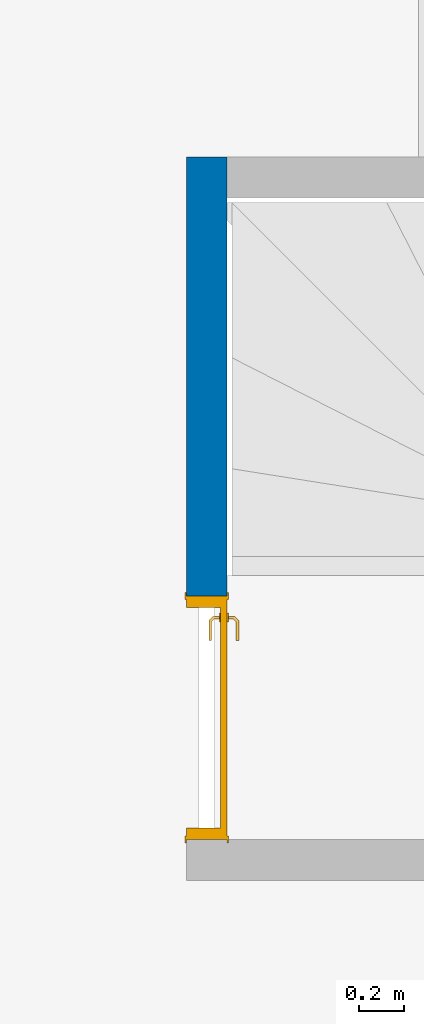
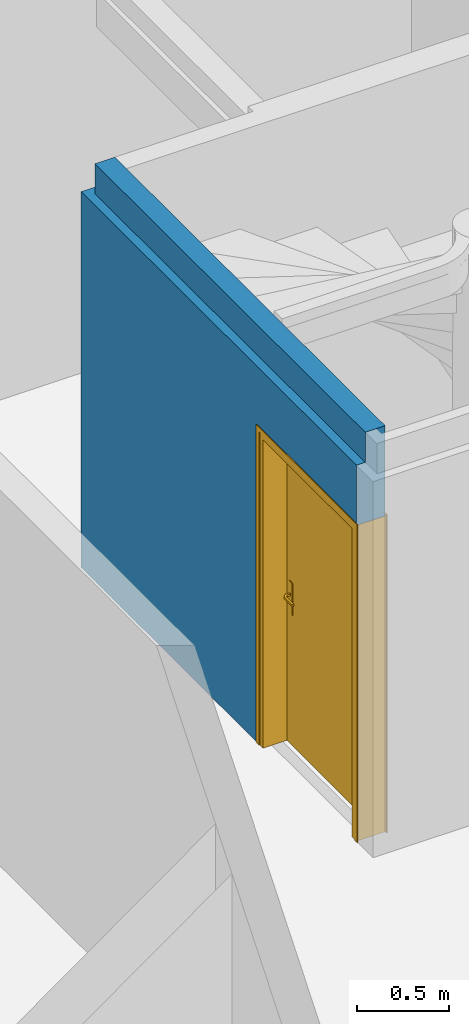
# One storey, part 16 of 34: 1 door, 1 wall, 1 opening.
"""IFC2X3 building model written with IfcOpenShell, lengths in centimetres."""

from ifc_helpers import new_model, entity, si_unit, converted_unit, derived_unit, direction, frame, frame_2d, origin, place, context, subcontext, project, spatial, rectangle, extrude, faceted_brep, source, transform, mapped, material, material_list, type_object, type_shapes, element, fill, save


model = new_model("IFC2X3")

# Units and contexts
model_context = context("Model", 3, precision=0.001, world=origin(), true_north=direction((6.12303176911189e-17, 1.0)))
body_context = subcontext(model_context, "Body", "Model", "MODEL_VIEW")
ifc_project = project(units=[si_unit("LENGTHUNIT", "METRE", prefix="CENTI"), si_unit("AREAUNIT", "SQUARE_METRE"), si_unit("VOLUMEUNIT", "CUBIC_METRE"), converted_unit("PLANEANGLEUNIT", "DEGREE", entity("IfcRatioMeasure", 0.0174532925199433), si_unit("PLANEANGLEUNIT", "RADIAN"), dimensions=[0, 0, 0, 0, 0, 0, 0]), si_unit("MASSUNIT", "GRAM", prefix="KILO"), derived_unit("MASSDENSITYUNIT", [(si_unit("MASSUNIT", "GRAM", prefix="KILO"), 1), (si_unit("LENGTHUNIT", "METRE"), -3)]), si_unit("TIMEUNIT", "SECOND"), si_unit("FREQUENCYUNIT", "HERTZ"), si_unit("THERMODYNAMICTEMPERATUREUNIT", "DEGREE_CELSIUS"), derived_unit("THERMALTRANSMITTANCEUNIT", [(si_unit("MASSUNIT", "GRAM", prefix="KILO"), 1), (si_unit("THERMODYNAMICTEMPERATUREUNIT", "KELVIN"), -1), (si_unit("TIMEUNIT", "SECOND"), -3)]), derived_unit("VOLUMETRICFLOWRATEUNIT", [(si_unit("LENGTHUNIT", "METRE"), 3), (si_unit("TIMEUNIT", "SECOND"), -1)]), si_unit("ELECTRICCURRENTUNIT", "AMPERE"), si_unit("ELECTRICVOLTAGEUNIT", "VOLT"), si_unit("POWERUNIT", "WATT"), si_unit("FORCEUNIT", "NEWTON"), si_unit("ILLUMINANCEUNIT", "LUX"), si_unit("LUMINOUSFLUXUNIT", "LUMEN"), si_unit("LUMINOUSINTENSITYUNIT", "CANDELA"), derived_unit("USERDEFINED", [(si_unit("MASSUNIT", "GRAM", prefix="KILO"), -1), (si_unit("LENGTHUNIT", "METRE"), -2), (si_unit("TIMEUNIT", "SECOND"), 3), (si_unit("LUMINOUSFLUXUNIT", "LUMEN"), 1)]), derived_unit("LINEARVELOCITYUNIT", [(si_unit("LENGTHUNIT", "METRE"), 1), (si_unit("TIMEUNIT", "SECOND"), -1)]), si_unit("PRESSUREUNIT", "PASCAL"), derived_unit("USERDEFINED", [(si_unit("LENGTHUNIT", "METRE"), -2), (si_unit("MASSUNIT", "GRAM", prefix="KILO"), 1), (si_unit("TIMEUNIT", "SECOND"), -2)])], contexts=[model_context])

# Site, building, storey
site_placement = place(None, origin())
site = spatial("IfcSite", under=ifc_project, at=site_placement, Name="Default", CompositionType="ELEMENT")
building_placement = place(site_placement, origin())
building = spatial("IfcBuilding", under=site, at=building_placement, Name="CAGE 03", CompositionType="ELEMENT")
storey_placement = place(building_placement, frame((0.0, 0.0, 340.0)))
storey = spatial("IfcBuildingStorey", under=building, at=storey_placement, Name="R+1", CompositionType="ELEMENT", Elevation=340.0)

# Wall, opening, door
wall_type = type_object("IfcWallType", Name="Mur de base:premur 18", PredefinedType="NOTDEFINED")
wall_placement = place(storey_placement, frame((10199.3658201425, 4650.66066607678, 0.0), z_axis=(0.0, 0.0, 1.0), x_axis=(0.0, 1.0, 0.0)))
wall = element("IfcWall", 1, at=wall_placement, inside=storey, type_object=wall_type, Name="Mur de base:premur 18", ObjectType="Mur de base:premur 18", context=body_context, shape_type="Brep", body=[
    faceted_brep([(107.0, -9.0, 0.0), (282.0, -9.0, 0.0), (294.500000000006, -9.0, 0.0), (300.0, -9.0, 0.0), (300.0, -9.0, 250.0), (294.500000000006, -9.0, 250.0), (294.500000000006, -9.0, 270.0), (282.0, -9.0, 270.0), (107.0, -9.0, 270.0), (0.0, -9.0, 270.0), (0.0, -9.0, 210.0), (107.0, -9.0, 210.0), (300.0, 9.0, 0.0), (107.0, 9.0, 0.0), (107.0, 9.0, 210.0), (0.0, 9.0, 210.0), (0.0, 9.0, 250.0), (300.0, 9.0, 250.0), (294.500000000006, 3.49999999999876, 270.0), (0.0, 3.49999999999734, 270.0), (0.0, 3.49999999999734, 250.0), (294.500000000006, 3.49999999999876, 250.0)], [[[0, 1, 2, 3, 4, 5, 6, 7, 8, 9, 10, 11]], [[12, 13, 14, 15, 16, 17]], [[12, 3, 2, 1, 0, 13]], [[9, 8, 7, 6, 18, 19]], [[3, 12, 17, 4]], [[10, 9, 19, 20, 16, 15]], [[11, 10, 15, 14]], [[0, 11, 14, 13]], [[20, 21, 5, 4, 17, 16]], [[21, 18, 6, 5]], [[18, 21, 20, 19]]]),
])
opening_placement = place(wall_placement, frame((107.0, 9.0, 0.0)))
opening = element("IfcOpeningElement", 2, at=opening_placement, cuts=wall, Name="Int. Simple:HB103:1", ObjectType="Opening", context=body_context, shape_type="SweptSolid", body=[
    extrude(rectangle(XDim=210.000000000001, YDim=107.0, at=frame_2d((105.000000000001, 53.4999999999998), x_axis=(1.0, 0.0))), frame((0.0, 0.0, 0.0), z_axis=(0.0, -1.0, 0.0), x_axis=(0.0, 0.0, 1.0)), (0.0, 0.0, 1.0), 18.0),
])
ifc_material_1 = material(Name="Finition Peinture - Blanc satiné")
ifc_material_2 = material(Name="Bois - Panneau de porte")
ifc_material_3 = material(Name="Bois - Cadre de porte")
ifc_material_list_1 = material_list([ifc_material_1, ifc_material_2, ifc_material_3])
ifc_material_list_2 = material_list([ifc_material_1, ifc_material_2, ifc_material_3])
door_style = type_object("IfcDoorStyle", Name="HB103", ConstructionType="NOTDEFINED", OperationType="SINGLE_SWING_RIGHT", ParameterTakesPrecedence=False, Sizeable=False, material=ifc_material_list_2)
shared_shape = source(origin(), body_context, "Body", "Brep", [
    faceted_brep([(106.500000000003, -0.500000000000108, 87.0), (106.500000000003, -0.500000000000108, 108.0), (105.535276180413, -0.500000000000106, 108.399601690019), (104.500000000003, -0.500000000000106, 108.535898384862), (103.464723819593, -0.500000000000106, 108.399601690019), (102.500000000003, -0.500000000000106, 108.0), (102.500000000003, -0.500000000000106, 87.0), (103.464723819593, -0.500000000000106, 86.6003983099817), (104.500000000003, -0.500000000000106, 86.464101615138), (105.535276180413, -0.500000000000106, 86.6003983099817), (106.500000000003, 0.0, 108.0), (106.500000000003, 0.0, 87.0), (105.535276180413, 0.0, 86.6003983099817), (104.500000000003, 0.0, 86.464101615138), (103.464723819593, 0.0, 86.6003983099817), (102.500000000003, 0.0, 87.0), (102.500000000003, 0.0, 108.0), (103.464723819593, 0.0, 108.399601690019), (104.500000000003, 0.0, 108.535898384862), (105.535276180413, 0.0, 108.399601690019)], [[[0, 1, 2, 3, 4, 5, 6, 7, 8, 9]], [[10, 11, 12, 13, 14, 15, 16, 17, 18, 19]], [[9, 12, 11, 0]], [[8, 13, 12, 9]], [[7, 14, 13, 8]], [[7, 6, 15, 14]], [[15, 6, 5, 16]], [[4, 17, 16, 5]], [[3, 18, 17, 4]], [[2, 19, 18, 3]], [[2, 1, 10, 19]], [[11, 10, 1, 0]]]),
    faceted_brep([(106.500000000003, 3.0, 87.0), (106.500000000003, 3.0, 108.0), (105.535276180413, 3.0, 108.399601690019), (104.500000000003, 3.0, 108.535898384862), (103.464723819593, 3.0, 108.399601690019), (102.500000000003, 3.0, 108.0), (102.500000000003, 3.0, 87.0), (103.464723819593, 3.0, 86.6003983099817), (104.500000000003, 3.0, 86.464101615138), (105.535276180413, 3.0, 86.6003983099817), (104.500000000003, 3.49999999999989, 108.535898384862), (105.535276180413, 3.49999999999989, 108.399601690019), (106.500000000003, 3.49999999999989, 108.0), (106.500000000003, 3.49999999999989, 87.0), (105.535276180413, 3.49999999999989, 86.6003983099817), (104.500000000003, 3.49999999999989, 86.464101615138), (103.464723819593, 3.49999999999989, 86.6003983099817), (102.500000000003, 3.49999999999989, 87.0), (102.500000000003, 3.49999999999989, 108.0), (103.464723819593, 3.49999999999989, 108.399601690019)], [[[0, 1, 2, 3, 4, 5, 6, 7, 8, 9]], [[10, 11, 12, 13, 14, 15, 16, 17, 18, 19]], [[4, 19, 18, 5]], [[3, 10, 19, 4]], [[2, 11, 10, 3]], [[2, 1, 12, 11]], [[13, 12, 1, 0]], [[9, 14, 13, 0]], [[8, 15, 14, 9]], [[7, 16, 15, 8]], [[7, 6, 17, 16]], [[17, 6, 5, 18]]]),
    faceted_brep([(104.297470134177, -0.500000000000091, 100.778044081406), (104.702529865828, -0.500000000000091, 100.778044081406), (105.100000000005, -0.500000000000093, 100.699999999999), (105.100000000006, -0.500000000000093, 99.299999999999), (104.702529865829, -0.500000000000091, 99.2219559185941), (104.297470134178, -0.500000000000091, 99.2219559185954), (103.9, -0.500000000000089, 99.3000000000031), (103.9, -0.500000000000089, 100.7), (104.702529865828, -3.1004575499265, 100.778044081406), (105.100000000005, -3.26509507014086, 100.7), (104.297470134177, -2.93267631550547, 100.778044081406), (102.92986024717, -4.30028620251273, 100.778044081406), (103.097641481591, -4.70534593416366, 100.778044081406), (103.9, -2.76803879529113, 100.7), (103.9, -2.76803879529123, 99.3000000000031), (104.297470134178, -2.93267631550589, 99.2219559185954), (104.702529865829, -3.10045754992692, 99.2219559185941), (103.097641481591, -4.70534593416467, 99.2219559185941), (102.92986024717, -4.30028620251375, 99.2219559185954), (105.100000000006, -3.26509507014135, 99.299999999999), (103.262279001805, -5.10281606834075, 100.7), (102.765222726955, -3.90281606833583, 100.7), (102.765222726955, -3.90281606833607, 99.3000000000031), (103.262279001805, -5.10281606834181, 99.299999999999), (94.4981359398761, -5.1028160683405, 100.7), (94.4981359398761, -4.7053459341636, 100.778044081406), (94.4981359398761, -4.30028620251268, 100.778044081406), (94.4981359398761, -3.90281606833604, 100.699999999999), (94.4981359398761, -3.90281606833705, 99.3000000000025), (94.4981359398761, -4.30028620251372, 99.2219559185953), (94.4981359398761, -4.70534593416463, 99.2219559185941), (94.4981359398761, -5.10281606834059, 99.2999999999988), (98.7139980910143, -4.50281606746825, 100.78786867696), (99.2692302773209, -5.10281606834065, 100.7), (98.6316793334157, -3.90281606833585, 100.7), (98.6316793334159, -3.90281606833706, 99.3000000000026), (98.7139981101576, -4.50281607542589, 99.2121313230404), (99.2692299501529, -5.10281606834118, 99.2999999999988)], [[[0, 1, 2, 3, 4, 5, 6, 7]], [[2, 1, 8, 9]], [[1, 0, 10, 11, 12, 8]], [[0, 7, 13, 10]], [[14, 13, 7, 6]], [[5, 15, 14, 6]], [[5, 4, 16, 17, 18, 15]], [[3, 19, 16, 4]], [[9, 19, 3, 2]], [[9, 8, 12, 20]], [[10, 13, 21, 11]], [[22, 21, 13, 14]], [[14, 15, 18, 22]], [[16, 19, 23, 17]], [[20, 23, 19, 9]], [[24, 25, 26, 27, 28, 29, 30, 31]], [[32, 25, 33]], [[33, 25, 24]], [[33, 20, 12]], [[11, 34, 32]], [[34, 11, 21]], [[27, 26, 34]], [[32, 26, 25]], [[32, 34, 26]], [[32, 33, 12]], [[11, 32, 12]], [[21, 22, 35, 28, 27, 34]], [[36, 29, 35]], [[30, 36, 37]], [[18, 35, 22]], [[29, 28, 35]], [[30, 37, 31]], [[37, 17, 23]], [[36, 17, 37]], [[36, 18, 17]], [[36, 35, 18]], [[29, 36, 30]], [[23, 20, 33, 24, 31, 37]]]),
    faceted_brep([(104.297470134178, 3.49999999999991, 99.2219559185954), (104.702529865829, 3.49999999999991, 99.2219559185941), (105.100000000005, 3.4999999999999, 99.2999999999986), (105.100000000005, 3.4999999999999, 100.7), (104.702529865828, 3.49999999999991, 100.778044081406), (104.297470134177, 3.49999999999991, 100.778044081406), (103.9, 3.49999999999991, 100.7), (103.900000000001, 3.49999999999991, 99.3000000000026), (103.9, 5.74852045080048, 100.7), (103.9, 5.74852045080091, 99.3000000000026), (104.297470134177, 5.91315797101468, 100.778044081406), (104.702529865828, 6.08093920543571, 100.778044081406), (103.083890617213, 7.69957845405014, 100.778044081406), (102.916109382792, 7.29451872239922, 100.778044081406), (105.100000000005, 6.24557672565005, 100.7), (105.100000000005, 6.2455767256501, 99.2999999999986), (104.702529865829, 6.08093920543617, 99.2219559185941), (104.297470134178, 5.91315797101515, 99.2219559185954), (102.916109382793, 7.29451872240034, 99.2219559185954), (103.083890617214, 7.69957845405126, 99.2219559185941), (102.751471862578, 6.89704858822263, 100.7), (102.751471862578, 6.89704858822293, 99.3000000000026), (103.248528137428, 8.09704858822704, 100.7), (103.248528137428, 8.09704858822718, 99.2999999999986), (94.4954216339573, 7.29451872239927, 100.778044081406), (94.4954216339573, 7.6995784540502, 100.778044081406), (94.4954216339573, 8.0970485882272, 100.7), (94.4954216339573, 8.09704858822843, 99.299999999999), (94.4954216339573, 7.6995784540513, 99.2219559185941), (94.4954216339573, 7.29451872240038, 99.2219559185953), (94.4954216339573, 6.89704858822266, 99.3000000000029), (94.4954216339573, 6.89704858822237, 100.7), (98.6234467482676, 6.89704858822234, 100.7), (98.6234479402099, 6.89704858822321, 99.3000000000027), (98.7057655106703, 7.4970485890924, 100.78786867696), (99.255479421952, 8.09704858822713, 100.7), (99.2554794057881, 8.09704858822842, 99.299999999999), (98.7057654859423, 7.49704858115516, 99.2121313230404)], [[[0, 1, 2, 3, 4, 5, 6, 7]], [[8, 9, 7, 6]], [[5, 10, 8, 6]], [[5, 4, 11, 12, 13, 10]], [[3, 14, 11, 4]], [[14, 3, 2, 15]], [[2, 1, 16, 15]], [[1, 0, 17, 18, 19, 16]], [[0, 7, 9, 17]], [[20, 21, 9, 8]], [[8, 10, 13, 20]], [[14, 22, 12, 11]], [[23, 22, 14, 15]], [[15, 16, 19, 23]], [[17, 9, 21, 18]], [[24, 25, 26, 27, 28, 29, 30, 31]], [[20, 32, 31, 30, 33, 21]], [[34, 24, 32]], [[25, 34, 35]], [[13, 32, 20]], [[24, 31, 32]], [[25, 35, 26]], [[35, 12, 22]], [[34, 12, 35]], [[34, 13, 12]], [[34, 32, 13]], [[24, 34, 25]], [[22, 23, 36, 27, 26, 35]], [[37, 28, 36]], [[36, 28, 27]], [[36, 23, 19]], [[18, 33, 37]], [[33, 18, 21]], [[30, 29, 33]], [[37, 29, 28]], [[37, 33, 29]], [[37, 36, 19]], [[18, 37, 19]]]),
    faceted_brep([(110.500000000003, 3.0, 206.5), (110.500000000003, 3.0, 0.0), (10.5000000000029, 3.0, 0.0), (10.5000000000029, 3.0, 206.5), (110.500000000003, 0.0, 206.5), (10.5000000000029, 0.0, 206.5), (10.5000000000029, 0.0, 0.0), (110.500000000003, 0.0, 0.0)], [[[0, 1, 2, 3]], [[4, 5, 6, 7]], [[3, 5, 4, 0]], [[2, 6, 5, 3]], [[1, 7, 6, 2]], [[0, 4, 7, 1]]]),
    faceted_brep([(114.0, 0.0, 0.0), (110.500000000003, 0.0, 0.0), (110.500000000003, 3.0, 0.0), (109.0, 3.0, 0.0), (109.0, 18.0, 0.0), (114.0, 18.0, 0.0), (114.0, 18.0, 210.0), (114.0, 0.0, 210.0), (109.0, 18.0, 205.0), (12.0, 18.0, 205.0), (12.0, 18.0, 0.0), (7.0, 18.0, 0.0), (7.0, 18.0, 210.0), (109.0, 3.0, 205.0), (110.500000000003, 3.0, 206.5), (10.5000000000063, 3.0, 206.5), (10.5000000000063, 3.0, 0.0), (12.0, 3.0, 0.0), (12.0, 3.0, 205.0), (110.500000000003, 0.0, 206.5), (7.0, 0.0, 210.0), (7.0, 0.0, 0.0), (10.5000000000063, 0.0, 0.0), (10.5000000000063, 0.0, 206.5)], [[[0, 1, 2, 3, 4, 5]], [[5, 6, 7, 0]], [[4, 8, 9, 10, 11, 12, 6, 5]], [[3, 13, 8, 4]], [[2, 14, 15, 16, 17, 18, 13, 3]], [[1, 19, 14, 2]], [[0, 7, 20, 21, 22, 23, 19, 1]], [[12, 11, 21, 20]], [[21, 11, 10, 17, 16, 22]], [[18, 17, 10, 9]], [[23, 22, 16, 15]], [[6, 12, 20, 7]], [[13, 18, 9, 8]], [[19, 23, 15, 14]]]),
    faceted_brep([(112.500000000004, 18.0, 0.0), (112.500000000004, 18.5000000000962, 0.0), (115.500000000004, 18.5000000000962, 0.0), (115.500000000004, 18.0, 0.0), (115.500000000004, 18.0, 211.500000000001), (5.50000000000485, 18.0, 211.500000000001), (5.50000000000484, 18.0, 0.0), (8.50000000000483, 18.0, 0.0), (8.50000000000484, 18.0, 208.500000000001), (112.500000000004, 18.0, 208.500000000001), (115.500000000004, 18.5000000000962, 211.500000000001), (112.500000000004, 18.5000000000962, 208.500000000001), (8.50000000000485, 18.5000000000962, 208.500000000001), (8.50000000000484, 18.5000000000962, 0.0), (5.50000000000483, 18.5000000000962, 0.0), (5.50000000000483, 18.5000000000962, 211.500000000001)], [[[0, 1, 2, 3]], [[3, 4, 5, 6, 7, 8, 9, 0]], [[2, 10, 4, 3]], [[1, 11, 12, 13, 14, 15, 10, 2]], [[0, 9, 11, 1]], [[7, 6, 14, 13]], [[8, 7, 13, 12]], [[15, 14, 6, 5]], [[10, 15, 5, 4]], [[9, 8, 12, 11]]]),
    faceted_brep([(115.500000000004, -0.5, 0.0), (115.500000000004, -0.5, 211.500000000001), (5.50000000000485, -0.5, 211.500000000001), (5.50000000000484, -0.5, 0.0), (8.50000000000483, -0.5, 0.0), (8.50000000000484, -0.5, 208.500000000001), (112.500000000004, -0.5, 208.500000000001), (112.500000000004, -0.5, 0.0), (115.500000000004, 0.0, 0.0), (115.500000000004, 0.0, 211.500000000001), (112.500000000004, 0.0, 0.0), (112.500000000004, 0.0, 208.500000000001), (8.50000000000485, 0.0, 208.500000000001), (8.50000000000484, 0.0, 0.0), (5.50000000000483, 0.0, 0.0), (5.50000000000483, 0.0, 211.500000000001)], [[[0, 1, 2, 3, 4, 5, 6, 7]], [[8, 9, 1, 0]], [[10, 11, 12, 13, 14, 15, 9, 8]], [[7, 6, 11, 10]], [[5, 4, 13, 12]], [[15, 14, 3, 2]], [[9, 15, 2, 1]], [[6, 5, 12, 11]], [[4, 3, 14, 13]], [[7, 10, 8, 0]]]),
])
type_shapes(door_style, [shared_shape])
door_placement = place(opening_placement, frame((-114.0, -18.0, 0.0)))
door = element("IfcDoor", 3, at=door_placement, inside=storey, type_object=door_style, material=ifc_material_list_1, Name="Int. Simple:HB103", ObjectType="HB103", OverallHeight=210.000000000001, OverallWidth=107.0, context=body_context, shape_type="MappedRepresentation", body=[
    mapped(shared_shape, transform((0.0, 0.0, 0.0), scale=1.0)),
])
fill(opening, door)

save(model, "model.ifc")
